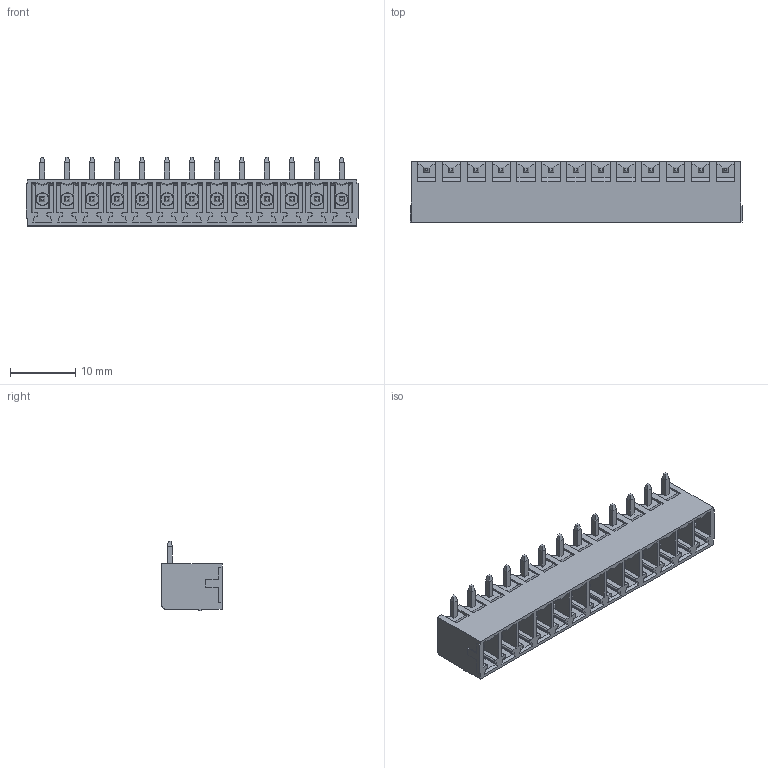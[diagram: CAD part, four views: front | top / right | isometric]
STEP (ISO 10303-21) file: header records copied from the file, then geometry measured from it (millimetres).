
FILE_DESCRIPTION(('FreeCAD Model'),'2;1');
FILE_NAME('Open CASCADE Shape Model','2023-05-24T16:23:25',('Author'),( ''),'Open CASCADE STEP processor 7.6','FreeCAD','Unknown');
FILE_SCHEMA(('AUTOMOTIVE_DESIGN { 1 0 10303 214 1 1 1 1 }'));
Products named in the file (1): BR7MN2-13
Bounding box: 50.72 x 9.2 x 10.6 mm (x, y, z)
Volume: 1536.6 mm3; surface area: 4633.6 mm2
Topology: 1 solids, 14 shells, 1119 faces, 2870 edges, 1805 vertices
Faces by surface type: plane 975, cylinder 79, cone 39, sphere 26
Entity records: 71594 total; most frequent: CARTESIAN_POINT 13591, DIRECTION 10869, LINE 7904, VECTOR 7904, ORIENTED_EDGE 5688, PCURVE 5688, DEFINITIONAL_REPRESENTATION 5688, EDGE_CURVE 2844
